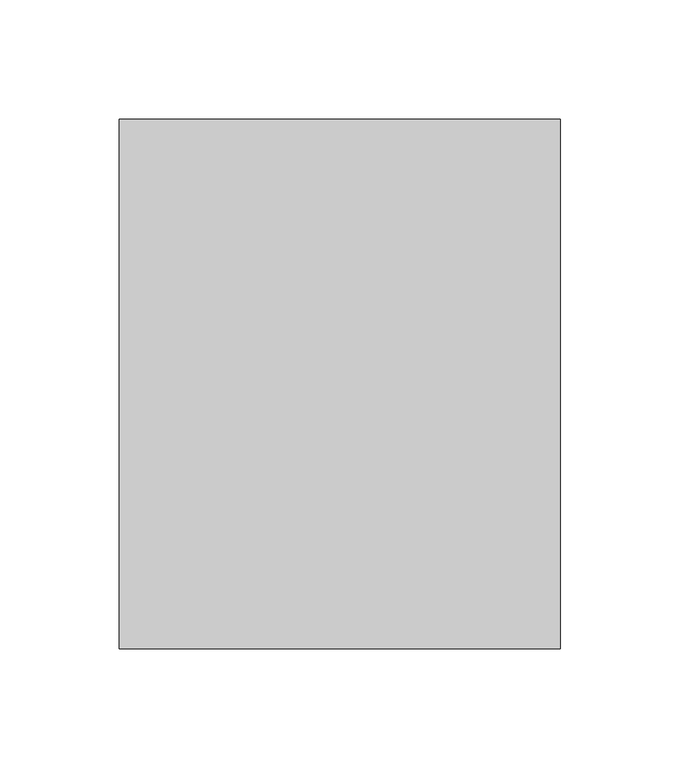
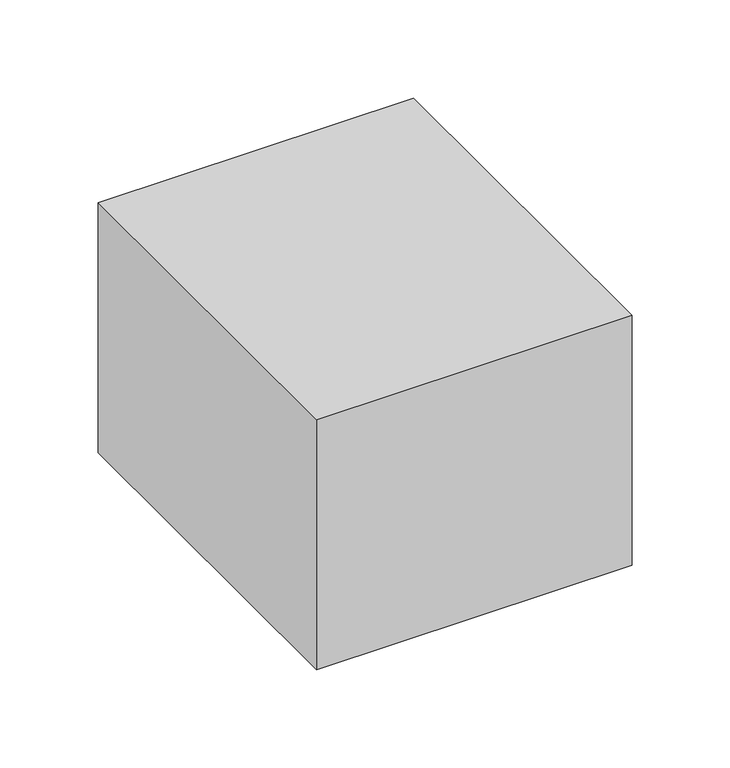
"""IFC4 building model written with IfcOpenShell, lengths in millimetres: light fixture geometry,  208 :  211938."""

from ifc_helpers import new_model, si_unit, frame, origin, place, context, project, spatial, polyline, outline, extrude, source, transform, mapped, element, save


def light_fixture_e218de78(model_context):
    return source(origin(), model_context, "Body", "SweptSolid", [
        extrude(outline(polyline([(1923.1346511, -690.7478255), (2108.1346511, -690.7478255), (2108.1346511, -912.7478255), (1923.1346511, -912.7478255), (1923.1346511, -690.7478255)])), frame((0.0, 0.0, 1375.0), z_axis=(0.0, 0.0, 1.0), x_axis=(1.0, 0.0, 0.0)), (0.0, 0.0, 1.0), 155.0),
    ])


if __name__ == "__main__":
    model = new_model("IFC4")
    model_context = context("Model", 3, world=origin())
    ifc_project = project(units=[si_unit("LENGTHUNIT", "METRE", prefix="MILLI")], contexts=[model_context])
    site = spatial("IfcSite", under=ifc_project)
    building = spatial("IfcBuilding", under=site)
    placement = place(None, origin())
    light_fixture_shape = light_fixture_e218de78(model_context)
    element("IfcLightFixture", 1, ObjectType=" 208 :  211938", at=placement, inside=building, context=model_context, shape_type="MappedRepresentation", body=[
        mapped(light_fixture_shape, transform((0.0, 0.0, 0.0), x_axis=(1.0, 0.0, 0.0), y_axis=(0.0, 1.0, 0.0), z_axis=(0.0, 0.0, 1.0))),
    ])
    save(model, "model.ifc")
